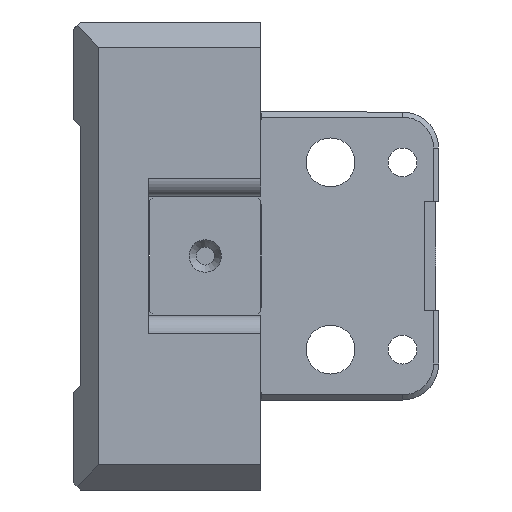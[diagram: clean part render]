
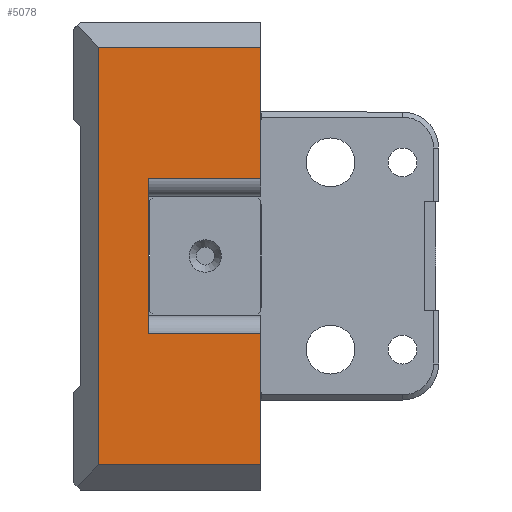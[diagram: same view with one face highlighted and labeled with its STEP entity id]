
A CAD part, left-side view. The second image highlights one B-rep face of the part: STEP entity #5078.
In plain terms, the highlighted planar face has unit normal (-1, 0, 0).
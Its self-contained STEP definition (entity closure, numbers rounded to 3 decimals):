
#206 = VECTOR ( 'NONE', #2642, 1000. ) ;
#294 = ORIENTED_EDGE ( 'NONE', *, *, #5205, .F. ) ;
#373 = EDGE_LOOP ( 'NONE', ( #4123, #4152, #2493, #4968, #294, #1367, #3226, #2740 ) ) ;
#471 = VERTEX_POINT ( 'NONE', #4407 ) ;
#485 = VERTEX_POINT ( 'NONE', #5283 ) ;
#543 = VECTOR ( 'NONE', #5424, 1000. ) ;
#597 = EDGE_CURVE ( 'NONE', #4891, #5368, #2819, .T. ) ;
#768 = VERTEX_POINT ( 'NONE', #4543 ) ;
#849 = CARTESIAN_POINT ( 'NONE',  ( -200., -26., 29. ) ) ;
#872 = CARTESIAN_POINT ( 'NONE',  ( -200., -26., 10.8 ) ) ;
#922 = CARTESIAN_POINT ( 'NONE',  ( -200., -26., -29. ) ) ;
#932 = LINE ( 'NONE', #922, #5404 ) ;
#966 = DIRECTION ( 'NONE',  ( -1., 0., 0. ) ) ;
#1118 = VERTEX_POINT ( 'NONE', #1378 ) ;
#1198 = VECTOR ( 'NONE', #1735, 1000. ) ;
#1220 = EDGE_CURVE ( 'NONE', #2665, #485, #3472, .T. ) ;
#1270 = VECTOR ( 'NONE', #5252, 1000. ) ;
#1302 = CARTESIAN_POINT ( 'NONE',  ( -200., -26., -32.5 ) ) ;
#1367 = ORIENTED_EDGE ( 'NONE', *, *, #4542, .T. ) ;
#1378 = CARTESIAN_POINT ( 'NONE',  ( -200., -3.5, -29. ) ) ;
#1597 = LINE ( 'NONE', #3266, #2593 ) ;
#1607 = VECTOR ( 'NONE', #3168, 1000. ) ;
#1735 = DIRECTION ( 'NONE',  ( 0., 0., 1. ) ) ;
#1804 = FACE_OUTER_BOUND ( 'NONE', #373, .T. ) ;
#1924 = DIRECTION ( 'NONE',  ( 0., 0., -1. ) ) ;
#2123 = LINE ( 'NONE', #4954, #4460 ) ;
#2235 = PLANE ( 'NONE',  #3689 ) ;
#2493 = ORIENTED_EDGE ( 'NONE', *, *, #4153, .T. ) ;
#2593 = VECTOR ( 'NONE', #3707, 1000. ) ;
#2642 = DIRECTION ( 'NONE',  ( 0., 1., 0. ) ) ;
#2665 = VERTEX_POINT ( 'NONE', #849 ) ;
#2737 = CARTESIAN_POINT ( 'NONE',  ( -200., -10.4, 10.8 ) ) ;
#2739 = VERTEX_POINT ( 'NONE', #872 ) ;
#2740 = ORIENTED_EDGE ( 'NONE', *, *, #1220, .T. ) ;
#2819 = LINE ( 'NONE', #4986, #543 ) ;
#2969 = EDGE_CURVE ( 'NONE', #2739, #2665, #3475, .T. ) ;
#3168 = DIRECTION ( 'NONE',  ( 0., -1., 0. ) ) ;
#3226 = ORIENTED_EDGE ( 'NONE', *, *, #2969, .T. ) ;
#3266 = CARTESIAN_POINT ( 'NONE',  ( -200., -3.5, -32.5 ) ) ;
#3472 = LINE ( 'NONE', #5245, #206 ) ;
#3475 = LINE ( 'NONE', #1302, #1198 ) ;
#3689 = AXIS2_PLACEMENT_3D ( 'NONE', #3948, #966, #3972 ) ;
#3707 = DIRECTION ( 'NONE',  ( 0., 0., -1. ) ) ;
#3840 = CARTESIAN_POINT ( 'NONE',  ( -200., -10.4, -10.8 ) ) ;
#3916 = DIRECTION ( 'NONE',  ( 0., -1., 0. ) ) ;
#3948 = CARTESIAN_POINT ( 'NONE',  ( -200., -26., -32.5 ) ) ;
#3972 = DIRECTION ( 'NONE',  ( 0., 0., 1. ) ) ;
#4123 = ORIENTED_EDGE ( 'NONE', *, *, #5338, .T. ) ;
#4152 = ORIENTED_EDGE ( 'NONE', *, *, #5040, .T. ) ;
#4153 = EDGE_CURVE ( 'NONE', #768, #5368, #4716, .T. ) ;
#4407 = CARTESIAN_POINT ( 'NONE',  ( -200., -10.4, 10.8 ) ) ;
#4460 = VECTOR ( 'NONE', #1924, 1000. ) ;
#4542 = EDGE_CURVE ( 'NONE', #471, #2739, #5061, .T. ) ;
#4543 = CARTESIAN_POINT ( 'NONE',  ( -200., -26., -29. ) ) ;
#4716 = LINE ( 'NONE', #4811, #1270 ) ;
#4811 = CARTESIAN_POINT ( 'NONE',  ( -200., -26., -32.5 ) ) ;
#4891 = VERTEX_POINT ( 'NONE', #3840 ) ;
#4954 = CARTESIAN_POINT ( 'NONE',  ( -200., -10.4, -10.8 ) ) ;
#4968 = ORIENTED_EDGE ( 'NONE', *, *, #597, .F. ) ;
#4986 = CARTESIAN_POINT ( 'NONE',  ( -200., -10.4, -10.8 ) ) ;
#5013 = CARTESIAN_POINT ( 'NONE',  ( -200., -26., -10.8 ) ) ;
#5040 = EDGE_CURVE ( 'NONE', #1118, #768, #932, .T. ) ;
#5061 = LINE ( 'NONE', #2737, #1607 ) ;
#5078 = ADVANCED_FACE ( 'NONE', ( #1804 ), #2235, .T. ) ;
#5205 = EDGE_CURVE ( 'NONE', #471, #4891, #2123, .T. ) ;
#5245 = CARTESIAN_POINT ( 'NONE',  ( -200., -26., 29. ) ) ;
#5252 = DIRECTION ( 'NONE',  ( 0., 0., 1. ) ) ;
#5283 = CARTESIAN_POINT ( 'NONE',  ( -200., -3.5, 29. ) ) ;
#5338 = EDGE_CURVE ( 'NONE', #485, #1118, #1597, .T. ) ;
#5368 = VERTEX_POINT ( 'NONE', #5013 ) ;
#5404 = VECTOR ( 'NONE', #3916, 1000. ) ;
#5424 = DIRECTION ( 'NONE',  ( 0., -1., 0. ) ) ;
